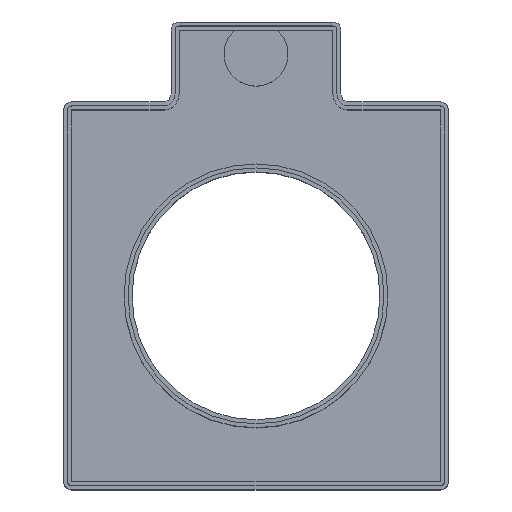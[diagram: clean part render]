
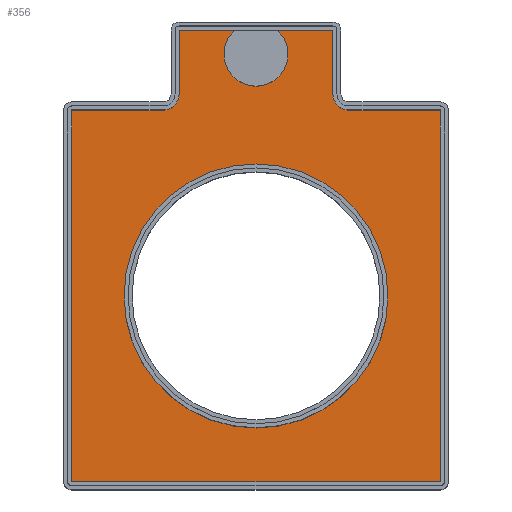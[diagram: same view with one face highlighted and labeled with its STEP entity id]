
A CAD part, top view. The second image highlights one B-rep face of the part: STEP entity #356.
In plain terms, the highlighted planar face has unit normal (0, 0, 1).
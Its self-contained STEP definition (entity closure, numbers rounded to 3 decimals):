
#147=LINE('',#1693,#241);
#150=LINE('',#1699,#244);
#152=LINE('',#1703,#246);
#154=LINE('',#1707,#248);
#156=LINE('',#1711,#250);
#159=LINE('',#1721,#253);
#162=LINE('',#1727,#256);
#166=LINE('',#1735,#260);
#167=LINE('',#1737,#261);
#241=VECTOR('',#1372,1.);
#244=VECTOR('',#1377,1.);
#246=VECTOR('',#1381,1.);
#248=VECTOR('',#1385,1.);
#250=VECTOR('',#1389,1.);
#253=VECTOR('',#1400,1.);
#256=VECTOR('',#1403,1.);
#260=VECTOR('',#1409,1.);
#261=VECTOR('',#1412,1.);
#308=PLANE('',#1187);
#356=ADVANCED_FACE('',(#418,#419),#308,.F.);
#418=FACE_BOUND('',#473,.T.);
#419=FACE_BOUND('',#474,.T.);
#473=EDGE_LOOP('',(#685,#686,#687,#688,#689,#690,#691,#692,#693,#694,#695,
#696));
#474=EDGE_LOOP('',(#697));
#685=ORIENTED_EDGE('',*,*,#1026,.F.);
#686=ORIENTED_EDGE('',*,*,#1005,.F.);
#687=ORIENTED_EDGE('',*,*,#1009,.F.);
#688=ORIENTED_EDGE('',*,*,#999,.F.);
#689=ORIENTED_EDGE('',*,*,#997,.F.);
#690=ORIENTED_EDGE('',*,*,#995,.F.);
#691=ORIENTED_EDGE('',*,*,#993,.F.);
#692=ORIENTED_EDGE('',*,*,#991,.F.);
#693=ORIENTED_EDGE('',*,*,#988,.F.);
#694=ORIENTED_EDGE('',*,*,#1012,.F.);
#695=ORIENTED_EDGE('',*,*,#1010,.F.);
#696=ORIENTED_EDGE('',*,*,#1002,.F.);
#697=ORIENTED_EDGE('',*,*,#908,.F.);
#804=VERTEX_POINT('',#1530);
#868=VERTEX_POINT('',#1694);
#869=VERTEX_POINT('',#1695);
#870=VERTEX_POINT('',#1700);
#871=VERTEX_POINT('',#1704);
#872=VERTEX_POINT('',#1708);
#873=VERTEX_POINT('',#1712);
#874=VERTEX_POINT('',#1716);
#876=VERTEX_POINT('',#1722);
#877=VERTEX_POINT('',#1723);
#878=VERTEX_POINT('',#1726);
#879=VERTEX_POINT('',#1728);
#882=VERTEX_POINT('',#1738);
#908=EDGE_CURVE('',#804,#804,#1060,.T.);
#988=EDGE_CURVE('',#868,#869,#147,.T.);
#991=EDGE_CURVE('',#869,#870,#150,.T.);
#993=EDGE_CURVE('',#870,#871,#152,.T.);
#995=EDGE_CURVE('',#871,#872,#154,.T.);
#997=EDGE_CURVE('',#872,#873,#156,.T.);
#999=EDGE_CURVE('',#873,#874,#1092,.T.);
#1002=EDGE_CURVE('',#876,#877,#159,.T.);
#1005=EDGE_CURVE('',#878,#879,#162,.T.);
#1009=EDGE_CURVE('',#874,#878,#166,.T.);
#1010=EDGE_CURVE('',#877,#882,#167,.T.);
#1012=EDGE_CURVE('',#882,#868,#1094,.T.);
#1026=EDGE_CURVE('',#879,#876,#1100,.T.);
#1060=CIRCLE('',#1111,33.);
#1092=CIRCLE('',#1168,4.);
#1094=CIRCLE('',#1174,4.);
#1100=CIRCLE('',#1186,8.);
#1111=AXIS2_PLACEMENT_3D('',#1529,#1220,#1221);
#1168=AXIS2_PLACEMENT_3D('',#1715,#1393,#1394);
#1174=AXIS2_PLACEMENT_3D('',#1741,#1416,#1417);
#1186=AXIS2_PLACEMENT_3D('',#9191,#1440,#1441);
#1187=AXIS2_PLACEMENT_3D('',#9192,#1442,#1443);
#1220=DIRECTION('',(0.,0.,1.));
#1221=DIRECTION('',(-1.,0.,0.));
#1372=DIRECTION('',(1.,0.,0.));
#1377=DIRECTION('',(0.,-1.,0.));
#1381=DIRECTION('',(-1.,0.,0.));
#1385=DIRECTION('',(0.,1.,0.));
#1389=DIRECTION('',(1.,0.,0.));
#1393=DIRECTION('',(0.,0.,1.));
#1394=DIRECTION('',(-1.,0.,0.));
#1400=DIRECTION('',(1.,0.,0.));
#1403=DIRECTION('',(1.,0.,0.));
#1409=DIRECTION('',(0.,1.,0.));
#1412=DIRECTION('',(0.,-1.,0.));
#1416=DIRECTION('',(0.,0.,1.));
#1417=DIRECTION('',(-1.,0.,0.));
#1440=DIRECTION('',(0.,0.,1.));
#1441=DIRECTION('',(-1.,0.,0.));
#1442=DIRECTION('',(0.,0.,-1.));
#1443=DIRECTION('',(-1.,0.,0.));
#1529=CARTESIAN_POINT('',(58.128,119.222,2.));
#1530=CARTESIAN_POINT('',(25.128,119.222,2.));
#1693=CARTESIAN_POINT('',(104.228,165.722,2.));
#1694=CARTESIAN_POINT('',(81.378,165.722,2.));
#1695=CARTESIAN_POINT('',(104.228,165.722,2.));
#1699=CARTESIAN_POINT('',(104.228,165.722,2.));
#1700=CARTESIAN_POINT('',(104.228,72.722,2.));
#1703=CARTESIAN_POINT('',(104.228,72.722,2.));
#1704=CARTESIAN_POINT('',(12.028,72.722,2.));
#1707=CARTESIAN_POINT('',(12.028,165.722,2.));
#1708=CARTESIAN_POINT('',(12.028,165.722,2.));
#1711=CARTESIAN_POINT('',(104.228,165.722,2.));
#1712=CARTESIAN_POINT('',(34.878,165.722,2.));
#1715=CARTESIAN_POINT('',(34.878,169.722,2.));
#1716=CARTESIAN_POINT('',(38.878,169.722,2.));
#1721=CARTESIAN_POINT('',(104.228,185.722,2.));
#1722=CARTESIAN_POINT('',(63.42,185.722,2.));
#1723=CARTESIAN_POINT('',(77.378,185.722,2.));
#1726=CARTESIAN_POINT('',(38.878,185.722,2.));
#1727=CARTESIAN_POINT('',(104.228,185.722,2.));
#1728=CARTESIAN_POINT('',(52.837,185.722,2.));
#1735=CARTESIAN_POINT('',(38.878,165.722,2.));
#1737=CARTESIAN_POINT('',(77.378,165.722,2.));
#1738=CARTESIAN_POINT('',(77.378,169.722,2.));
#1741=CARTESIAN_POINT('',(81.378,169.722,2.));
#9191=CARTESIAN_POINT('',(58.128,179.722,2.));
#9192=CARTESIAN_POINT('',(104.228,165.722,2.));
